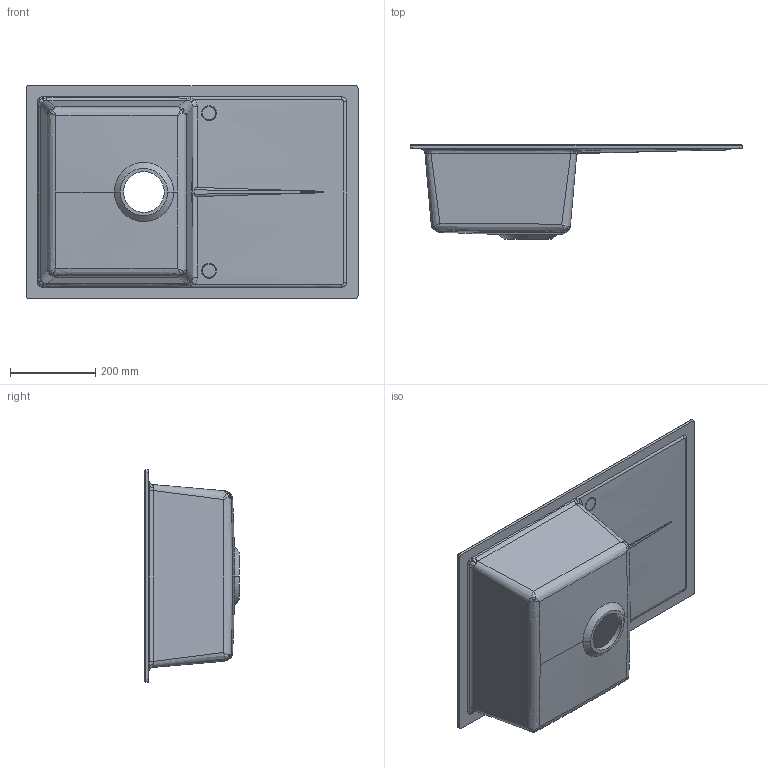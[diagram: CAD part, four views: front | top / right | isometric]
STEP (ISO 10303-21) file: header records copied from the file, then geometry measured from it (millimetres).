
FILE_DESCRIPTION (( 'STEP AP214' ), '1' );
FILE_NAME ('G2_D100S_CJ.STEP', '2023-09-04T05:59:41', ( '' ), ( '' ), 'SwSTEP 2.0', 'SolidWorks 2022', '' );
FILE_SCHEMA (( 'AUTOMOTIVE_DESIGN' ));
Length unit declared in the file: millimetre
Products named in the file (1): G2_D100S_CJ
Bounding box: 780 x 222.52 x 500 mm (x, y, z)
Volume: 4077216.3 mm3; surface area: 1295355.6 mm2
Topology: 1 solids, 1 shells, 208 faces, 502 edges, 284 vertices
Faces by surface type: bspline 108, cylinder 43, plane 33, torus 8, cone 8, sphere 8
Entity records: 16865 total; most frequent: CARTESIAN_POINT 13002, ORIENTED_EDGE 968, DIRECTION 556, EDGE_CURVE 484, VERTEX_POINT 284, AXIS2_PLACEMENT_3D 227, EDGE_LOOP 218, B_SPLINE_CURVE_WITH_KNOTS 216
